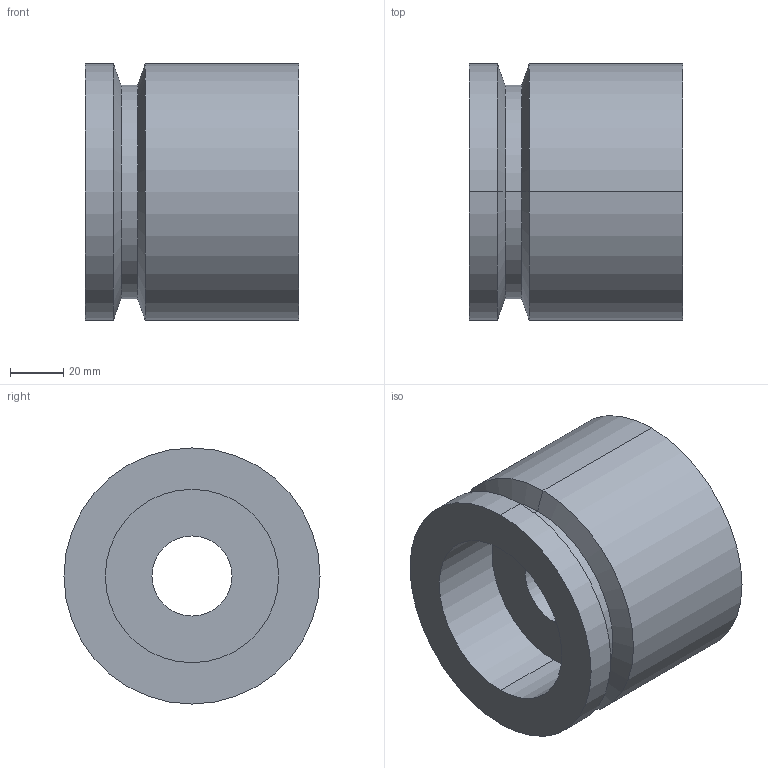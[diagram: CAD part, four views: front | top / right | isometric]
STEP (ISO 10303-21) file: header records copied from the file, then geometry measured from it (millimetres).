
FILE_DESCRIPTION (( 'STEP AP203' ), '1' );
FILE_NAME ('449.014.106.STEP', '2018-03-12T08:19:54', ( '' ), ( '' ), 'SwSTEP 2.0', 'SolidWorks 2016', '' );
FILE_SCHEMA (( 'CONFIG_CONTROL_DESIGN' ));
Length unit declared in the file: millimetre
Products named in the file (1): 449.014.106
Bounding box: 80 x 96 x 96 mm (x, y, z)
Volume: 429093.7 mm3; surface area: 50449.2 mm2
Topology: 1 solids, 1 shells, 17 faces, 34 edges, 20 vertices
Faces by surface type: cylinder 10, cone 4, plane 3
Entity records: 525 total; most frequent: DIRECTION 90, CARTESIAN_POINT 72, ORIENTED_EDGE 68, AXIS2_PLACEMENT_3D 38, EDGE_CURVE 34, CIRCLE 20, EDGE_LOOP 20, VERTEX_POINT 20
